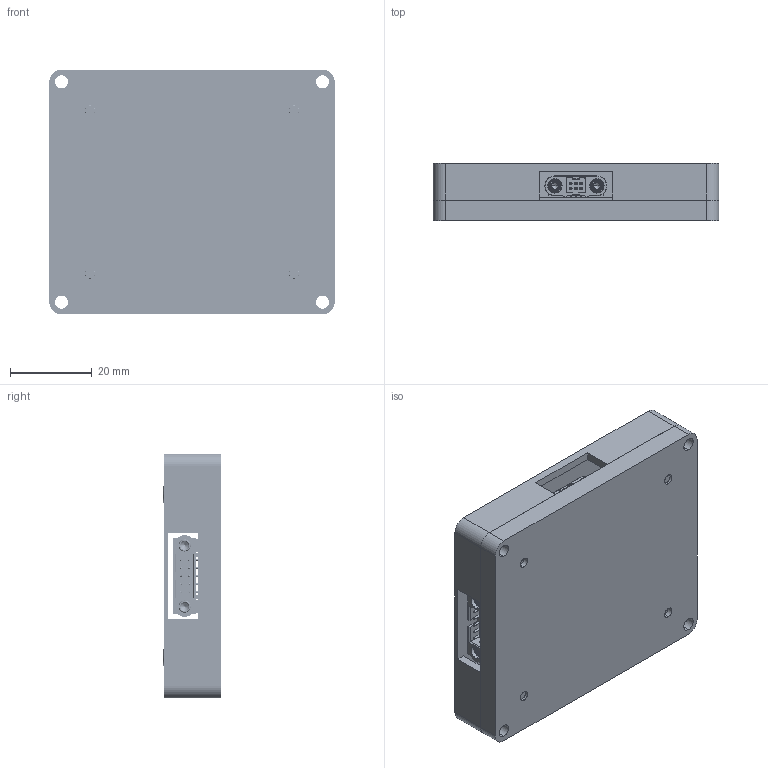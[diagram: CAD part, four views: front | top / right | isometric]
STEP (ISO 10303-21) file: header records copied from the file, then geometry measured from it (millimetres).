
FILE_DESCRIPTION (( 'STEP AP214' ), '1' );
FILE_NAME ('MTQ800-150-drvbx-asm-20221116.STEP', '2022-11-16T09:23:50', ( '' ), ( '' ), 'SwSTEP 2.0', 'SolidWorks 2021', '' );
FILE_SCHEMA (( 'AUTOMOTIVE_DESIGN' ));
Length unit declared in the file: millimetre
Products named in the file (2): Default_defeature^MTQ800-150-drvbx-asm-20221116.STEP; MTQ800-150-drvbx-asm-20221116
Assembly tree (1 placements, depth 2):
  MTQ800-150-drvbx-asm-20221116
    Default_defeature^MTQ800-150-drvbx-asm-20221116.STEP
Bounding box: 70 x 14.1 x 60 mm (x, y, z)
Surface area: 34147.5 mm2 (no closed solid volume)
Topology: 0 solids, 62 shells, 2931 faces, 7015 edges, 4208 vertices
Faces by surface type: cylinder 821, plane 792, bspline 708, torus 344, cone 266
Entity records: 151983 total; most frequent: CARTESIAN_POINT 77266, ORIENTED_EDGE 13878, DIRECTION 12161, EDGE_CURVE 6971, AXIS2_PLACEMENT_3D 4871, VERTEX_POINT 4208, EDGE_LOOP 3219, ADVANCED_FACE 2931
